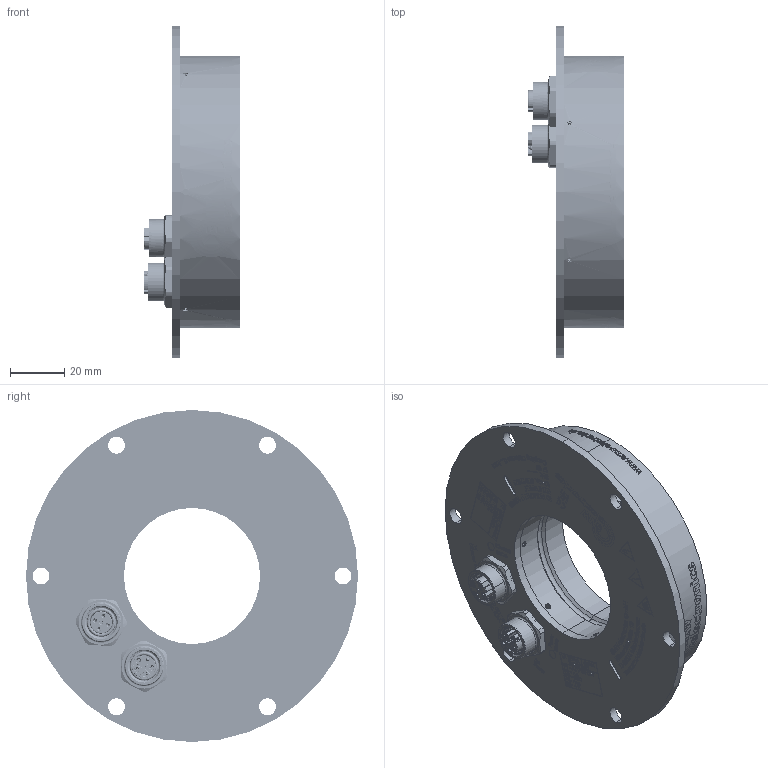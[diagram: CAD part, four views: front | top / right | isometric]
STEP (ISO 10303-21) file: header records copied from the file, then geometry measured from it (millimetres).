
FILE_DESCRIPTION (( 'STEP AP203' ), '1' );
FILE_NAME ('K0E012321_IC-REMOTE F100_50_zum_Versenden.STEP', '2023-12-22T08:33:11', ( '' ), ( '' ), 'SwSTEP 2.0', 'SolidWorks 2023', '' );
FILE_SCHEMA (( 'CONFIG_CONTROL_DESIGN' ));
Length unit declared in the file: millimetre
Products named in the file (1): K0E012321_IC-REMOTE F100_50_zum_Versenden
Bounding box: 35.34 x 122 x 122 mm (x, y, z)
Surface area: 71762.4 mm2 (no closed solid volume)
Topology: 0 solids, 54 shells, 6377 faces, 18089 edges, 12376 vertices
Faces by surface type: plane 3481, bspline 2107, cylinder 520, cone 179, torus 90
Entity records: 320932 total; most frequent: CARTESIAN_POINT 169682, ORIENTED_EDGE 35468, DIRECTION 22935, EDGE_CURVE 18077, VERTEX_POINT 12376, VECTOR 11569, LINE 11569, EDGE_LOOP 7126
